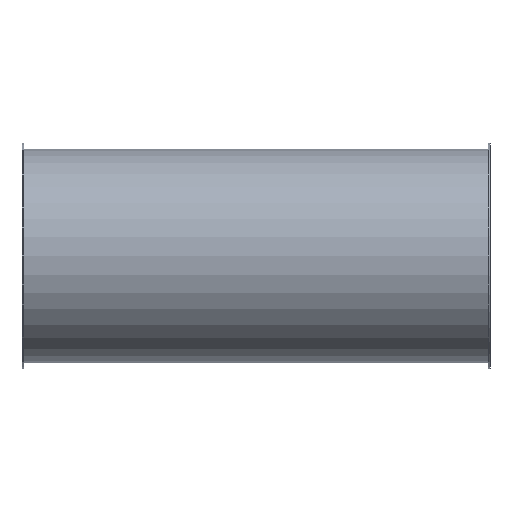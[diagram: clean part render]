
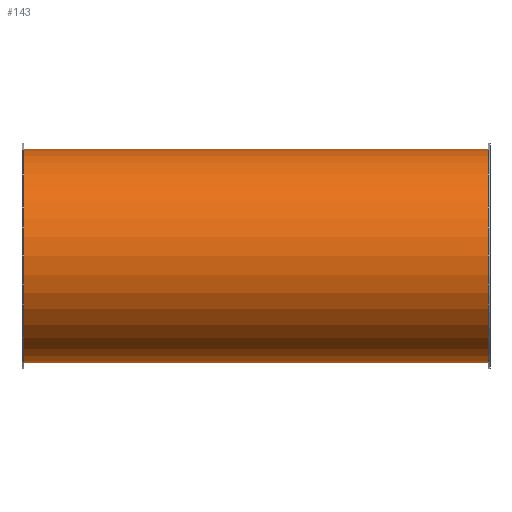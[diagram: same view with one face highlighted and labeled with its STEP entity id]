
A CAD part, front view. The second image highlights one B-rep face of the part: STEP entity #143.
In plain terms, the highlighted cylindrical face has radius 111.5 mm (diameter 223 mm), a full revolution.
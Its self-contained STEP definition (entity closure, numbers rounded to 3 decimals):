
#112=CARTESIAN_POINT('',(454.119,2.817,0.0));
#113=VERTEX_POINT('',#112);
#114=CARTESIAN_POINT('',(454.119,114.317,0.0));
#115=DIRECTION('',(-1.0,0.0,0.0));
#116=DIRECTION('',(0.0,-1.0,0.0));
#117=AXIS2_PLACEMENT_3D('',#114,#115,#116);
#118=CIRCLE('',#117,111.5);
#119=EDGE_CURVE('',#113,#113,#118,.T.);
#124=CARTESIAN_POINT('',(212.119,114.317,0.0));
#125=DIRECTION('',(-1.0,0.,0.0));
#126=DIRECTION('',(0.0,-1.0,0.0));
#127=AXIS2_PLACEMENT_3D('',#124,#125,#126);
#128=CYLINDRICAL_SURFACE('',#127,111.5);
#129=CARTESIAN_POINT('',(-29.881,2.817,0.0));
#130=VERTEX_POINT('',#129);
#131=CARTESIAN_POINT('',(-29.881,114.317,0.0));
#132=DIRECTION('',(-1.0,0.0,0.0));
#133=DIRECTION('',(0.0,-1.0,0.0));
#134=AXIS2_PLACEMENT_3D('',#131,#132,#133);
#135=CIRCLE('',#134,111.5);
#136=EDGE_CURVE('',#130,#130,#135,.T.);
#137=ORIENTED_EDGE('',*,*,#136,.F.);
#138=EDGE_LOOP('',(#137));
#139=FACE_OUTER_BOUND('',#138,.T.);
#140=ORIENTED_EDGE('',*,*,#119,.T.);
#141=EDGE_LOOP('',(#140));
#142=FACE_BOUND('',#141,.T.);
#143=ADVANCED_FACE('',(#139,#142),#128,.T.);
